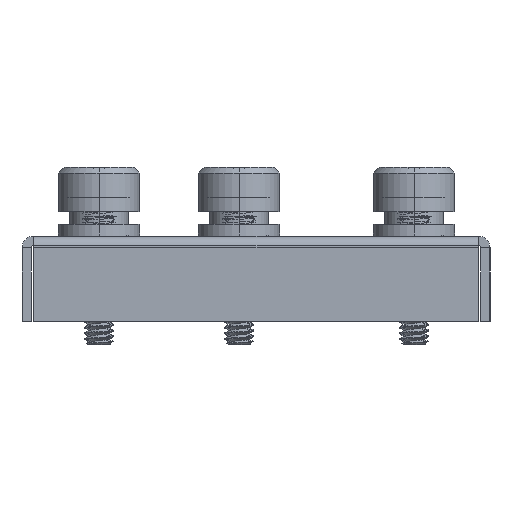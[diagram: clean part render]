
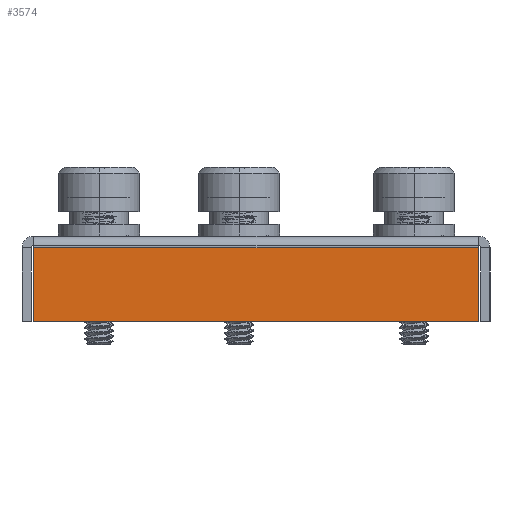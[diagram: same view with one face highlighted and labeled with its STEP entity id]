
A CAD part, left-side view. The second image highlights one B-rep face of the part: STEP entity #3574.
In plain terms, the highlighted planar face has unit normal (-1, 0, 0).
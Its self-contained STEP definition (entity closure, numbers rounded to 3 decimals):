
#749=DIRECTION('',(0.,0.,1.));
#750=VECTOR('',#749,6.3);
#751=CARTESIAN_POINT('',(-218.,131.5,-6.5));
#752=LINE('',#751,#750);
#753=DIRECTION('',(0.,-1.,0.));
#754=VECTOR('',#753,38.1);
#755=CARTESIAN_POINT('',(-218.,169.6,-6.5));
#756=LINE('',#755,#754);
#757=DIRECTION('',(0.,0.,-1.));
#758=VECTOR('',#757,6.3);
#759=CARTESIAN_POINT('',(-218.,169.6,-0.2));
#760=LINE('',#759,#758);
#775=DIRECTION('',(0.,1.,0.));
#776=VECTOR('',#775,38.1);
#777=CARTESIAN_POINT('',(-218.,131.5,-0.2));
#778=LINE('',#777,#776);
#2267=CARTESIAN_POINT('',(-218.,169.6,-0.2));
#2268=CARTESIAN_POINT('',(-218.,169.6,-6.5));
#2269=VERTEX_POINT('',#2267);
#2270=VERTEX_POINT('',#2268);
#2271=CARTESIAN_POINT('',(-218.,131.5,-6.5));
#2272=VERTEX_POINT('',#2271);
#2273=CARTESIAN_POINT('',(-218.,131.5,-0.2));
#2274=VERTEX_POINT('',#2273);
#3560=CARTESIAN_POINT('',(-218.,169.6,0.8));
#3561=DIRECTION('',(-1.,0.,0.));
#3562=DIRECTION('',(0.,1.,0.));
#3563=AXIS2_PLACEMENT_3D('',#3560,#3561,#3562);
#3564=PLANE('',#3563);
#3566=ORIENTED_EDGE('',*,*,#3565,.F.);
#3567=ORIENTED_EDGE('',*,*,#3550,.F.);
#3569=ORIENTED_EDGE('',*,*,#3568,.F.);
#3571=ORIENTED_EDGE('',*,*,#3570,.F.);
#3572=EDGE_LOOP('',(#3566,#3567,#3569,#3571));
#3573=FACE_OUTER_BOUND('',#3572,.F.);
#3550=EDGE_CURVE('',#2272,#2274,#752,.T.);
#3565=EDGE_CURVE('',#2274,#2269,#778,.T.);
#3568=EDGE_CURVE('',#2270,#2272,#756,.T.);
#3570=EDGE_CURVE('',#2269,#2270,#760,.T.);
#3574=ADVANCED_FACE('',(#3573),#3564,.T.);
